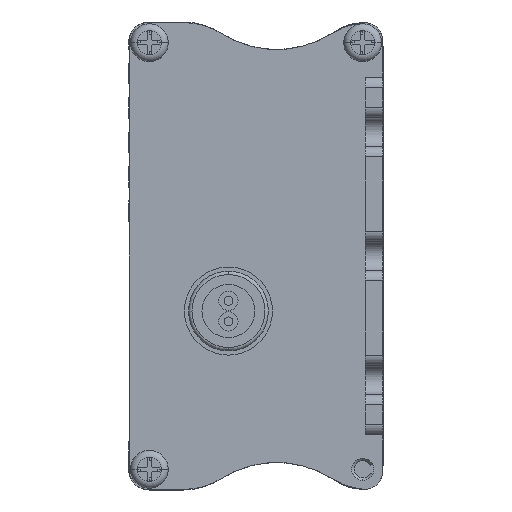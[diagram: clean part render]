
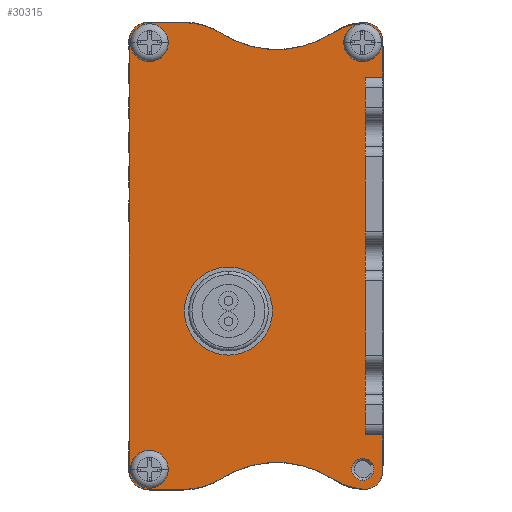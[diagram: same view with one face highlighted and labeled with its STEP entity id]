
A CAD part, left-side view. The second image highlights one B-rep face of the part: STEP entity #30315.
In plain terms, the highlighted planar face has unit normal (-1, 0, 0) as drawn and (1, 0, 0) by its records, which use the part's own axes.
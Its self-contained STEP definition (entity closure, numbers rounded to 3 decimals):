
#29438=CARTESIAN_POINT('',(2.5,22.4,8.));
#29439=DIRECTION('',(-1.,0.,0.));
#29440=DIRECTION('',(0.,1.,0.));
#29441=AXIS2_PLACEMENT_3D('',#29438,#29439,#29440);
#29443=CARTESIAN_POINT('',(2.5,22.4,8.));
#29444=DIRECTION('',(-1.,0.,0.));
#29445=DIRECTION('',(0.,-1.,0.));
#29446=AXIS2_PLACEMENT_3D('',#29443,#29444,#29445);
#29448=CARTESIAN_POINT('',(2.5,28.809,-23.9));
#29449=DIRECTION('',(1.,0.,0.));
#29450=DIRECTION('',(0.,-0.536,-0.844));
#29451=AXIS2_PLACEMENT_3D('',#29448,#29449,#29450);
#29453=CARTESIAN_POINT('',(2.5,15.4,-45.));
#29454=DIRECTION('',(1.,0.,0.));
#29455=DIRECTION('',(0.,0.536,0.844));
#29456=AXIS2_PLACEMENT_3D('',#29453,#29454,#29455);
#29458=CARTESIAN_POINT('',(2.5,1.959,-23.921));
#29459=DIRECTION('',(1.,0.,0.));
#29460=DIRECTION('',(0.,0.064,-0.998));
#29461=AXIS2_PLACEMENT_3D('',#29458,#29459,#29460);
#29463=CARTESIAN_POINT('',(2.5,2.6,-31.3));
#29464=DIRECTION('',(1.,0.,0.));
#29465=DIRECTION('',(0.,-1.,0.));
#29466=AXIS2_PLACEMENT_3D('',#29463,#29464,#29465);
#29468=DIRECTION('',(0.,0.,-1.));
#29469=VECTOR('',#29468,5.3);
#29470=CARTESIAN_POINT('',(2.5,0.,-26.));
#29471=LINE('',#29470,#29469);
#29472=DIRECTION('',(0.,1.,0.));
#29473=VECTOR('',#29472,2.5);
#29474=CARTESIAN_POINT('',(2.5,0.,26.));
#29475=LINE('',#29474,#29473);
#29476=DIRECTION('',(0.,0.,-1.));
#29477=VECTOR('',#29476,5.3);
#29478=CARTESIAN_POINT('',(2.5,0.,31.3));
#29479=LINE('',#29478,#29477);
#29480=CARTESIAN_POINT('',(2.5,2.6,31.3));
#29481=DIRECTION('',(1.,0.,0.));
#29482=DIRECTION('',(0.,0.,1.));
#29483=AXIS2_PLACEMENT_3D('',#29480,#29481,#29482);
#29485=CARTESIAN_POINT('',(2.5,1.959,23.921));
#29486=DIRECTION('',(1.,0.,0.));
#29487=DIRECTION('',(0.,0.538,0.843));
#29488=AXIS2_PLACEMENT_3D('',#29485,#29486,#29487);
#29490=CARTESIAN_POINT('',(2.5,15.4,45.));
#29491=DIRECTION('',(1.,0.,0.));
#29492=DIRECTION('',(0.,-0.538,-0.843));
#29493=AXIS2_PLACEMENT_3D('',#29490,#29491,#29492);
#29495=CARTESIAN_POINT('',(2.5,28.809,23.9));
#29496=DIRECTION('',(1.,0.,0.));
#29497=DIRECTION('',(0.,0.,1.));
#29498=AXIS2_PLACEMENT_3D('',#29495,#29496,#29497);
#29500=DIRECTION('',(0.,-1.,0.));
#29501=VECTOR('',#29500,5.391);
#29502=CARTESIAN_POINT('',(2.5,34.2,33.9));
#29503=LINE('',#29502,#29501);
#29504=CARTESIAN_POINT('',(2.5,34.2,31.3));
#29505=DIRECTION('',(1.,0.,0.));
#29506=DIRECTION('',(0.,1.,0.));
#29507=AXIS2_PLACEMENT_3D('',#29504,#29505,#29506);
#29509=DIRECTION('',(0.,0.,1.));
#29510=VECTOR('',#29509,62.6);
#29511=CARTESIAN_POINT('',(2.5,36.8,-31.3));
#29512=LINE('',#29511,#29510);
#29513=CARTESIAN_POINT('',(2.5,34.2,-31.3));
#29514=DIRECTION('',(1.,0.,0.));
#29515=DIRECTION('',(0.,0.,-1.));
#29516=AXIS2_PLACEMENT_3D('',#29513,#29514,#29515);
#29518=CARTESIAN_POINT('',(2.5,2.9,31.));
#29519=DIRECTION('',(-1.,0.,0.));
#29520=DIRECTION('',(0.,0.,-1.));
#29521=AXIS2_PLACEMENT_3D('',#29518,#29519,#29520);
#29523=CARTESIAN_POINT('',(2.5,2.9,31.));
#29524=DIRECTION('',(-1.,0.,0.));
#29525=DIRECTION('',(0.,0.,1.));
#29526=AXIS2_PLACEMENT_3D('',#29523,#29524,#29525);
#29528=CARTESIAN_POINT('',(2.5,33.9,31.));
#29529=DIRECTION('',(-1.,0.,0.));
#29530=DIRECTION('',(0.,0.,-1.));
#29531=AXIS2_PLACEMENT_3D('',#29528,#29529,#29530);
#29533=CARTESIAN_POINT('',(2.5,33.9,31.));
#29534=DIRECTION('',(-1.,0.,0.));
#29535=DIRECTION('',(0.,0.,1.));
#29536=AXIS2_PLACEMENT_3D('',#29533,#29534,#29535);
#29538=CARTESIAN_POINT('',(2.5,33.9,-31.));
#29539=DIRECTION('',(-1.,0.,0.));
#29540=DIRECTION('',(0.,0.,-1.));
#29541=AXIS2_PLACEMENT_3D('',#29538,#29539,#29540);
#29543=CARTESIAN_POINT('',(2.5,33.9,-31.));
#29544=DIRECTION('',(-1.,0.,0.));
#29545=DIRECTION('',(0.,0.,1.));
#29546=AXIS2_PLACEMENT_3D('',#29543,#29544,#29545);
#29548=CARTESIAN_POINT('',(2.5,2.9,-31.));
#29549=DIRECTION('',(-1.,0.,0.));
#29550=DIRECTION('',(0.,0.,-1.));
#29551=AXIS2_PLACEMENT_3D('',#29548,#29549,#29550);
#29553=CARTESIAN_POINT('',(2.5,2.9,-31.));
#29554=DIRECTION('',(-1.,0.,0.));
#29555=DIRECTION('',(0.,0.,1.));
#29556=AXIS2_PLACEMENT_3D('',#29553,#29554,#29555);
#29686=DIRECTION('',(0.,0.,1.));
#29687=VECTOR('',#29686,52.);
#29688=CARTESIAN_POINT('',(2.5,2.5,-26.));
#29689=LINE('',#29688,#29687);
#29796=DIRECTION('',(0.,1.,0.));
#29797=VECTOR('',#29796,2.5);
#29798=CARTESIAN_POINT('',(2.5,0.,-26.));
#29799=LINE('',#29798,#29797);
#29896=DIRECTION('',(0.,-1.,0.));
#29897=VECTOR('',#29896,5.391);
#29898=CARTESIAN_POINT('',(2.5,34.2,-33.9));
#29899=LINE('',#29898,#29897);
#29957=CARTESIAN_POINT('',(2.5,36.8,-31.3));
#29959=VERTEX_POINT('',#29957);
#29960=CARTESIAN_POINT('',(2.5,28.809,33.9));
#29962=VERTEX_POINT('',#29960);
#29965=CARTESIAN_POINT('',(2.5,34.2,33.9));
#29967=VERTEX_POINT('',#29965);
#29968=CARTESIAN_POINT('',(2.5,36.8,31.3));
#29970=VERTEX_POINT('',#29968);
#29973=CARTESIAN_POINT('',(2.5,2.6,-33.9));
#29975=VERTEX_POINT('',#29973);
#29977=CARTESIAN_POINT('',(2.5,23.445,32.34));
#29979=VERTEX_POINT('',#29977);
#29980=CARTESIAN_POINT('',(2.5,2.6,33.9));
#29982=VERTEX_POINT('',#29980);
#29984=CARTESIAN_POINT('',(2.5,7.335,32.352));
#29986=VERTEX_POINT('',#29984);
#29988=CARTESIAN_POINT('',(2.5,7.335,-32.352));
#29990=VERTEX_POINT('',#29988);
#29993=CARTESIAN_POINT('',(2.5,23.445,-32.34));
#29995=VERTEX_POINT('',#29993);
#30008=CARTESIAN_POINT('',(2.5,2.9,-32.6));
#30009=VERTEX_POINT('',#30008);
#30010=CARTESIAN_POINT('',(2.5,2.9,-29.4));
#30011=VERTEX_POINT('',#30010);
#30016=CARTESIAN_POINT('',(2.5,2.9,29.4));
#30017=VERTEX_POINT('',#30016);
#30018=CARTESIAN_POINT('',(2.5,2.9,32.6));
#30019=VERTEX_POINT('',#30018);
#30020=CARTESIAN_POINT('',(2.5,33.9,-32.6));
#30021=VERTEX_POINT('',#30020);
#30022=CARTESIAN_POINT('',(2.5,33.9,-29.4));
#30023=VERTEX_POINT('',#30022);
#30024=CARTESIAN_POINT('',(2.5,33.9,29.4));
#30025=VERTEX_POINT('',#30024);
#30026=CARTESIAN_POINT('',(2.5,33.9,32.6));
#30027=VERTEX_POINT('',#30026);
#30028=CARTESIAN_POINT('',(2.5,28.809,-33.9));
#30029=VERTEX_POINT('',#30028);
#30030=CARTESIAN_POINT('',(2.5,34.2,-33.9));
#30031=VERTEX_POINT('',#30030);
#30032=CARTESIAN_POINT('',(2.5,0.,31.3));
#30033=VERTEX_POINT('',#30032);
#30034=CARTESIAN_POINT('',(2.5,0.,26.));
#30035=VERTEX_POINT('',#30034);
#30036=CARTESIAN_POINT('',(2.5,2.5,26.));
#30037=VERTEX_POINT('',#30036);
#30038=CARTESIAN_POINT('',(2.5,2.5,-26.));
#30039=VERTEX_POINT('',#30038);
#30040=CARTESIAN_POINT('',(2.5,0.,-26.));
#30041=VERTEX_POINT('',#30040);
#30042=CARTESIAN_POINT('',(2.5,0.,-31.3));
#30043=VERTEX_POINT('',#30042);
#30052=CARTESIAN_POINT('',(2.5,28.8,8.));
#30053=CARTESIAN_POINT('',(2.5,16.,8.));
#30054=VERTEX_POINT('',#30052);
#30055=VERTEX_POINT('',#30053);
#30244=CARTESIAN_POINT('',(2.5,36.8,33.9));
#30245=DIRECTION('',(-1.,0.,0.));
#30246=DIRECTION('',(0.,-1.,0.));
#30247=AXIS2_PLACEMENT_3D('',#30244,#30245,#30246);
#30248=PLANE('',#30247);
#30250=ORIENTED_EDGE('',*,*,#30249,.F.);
#30252=ORIENTED_EDGE('',*,*,#30251,.T.);
#30254=ORIENTED_EDGE('',*,*,#30253,.F.);
#30256=ORIENTED_EDGE('',*,*,#30255,.F.);
#30258=ORIENTED_EDGE('',*,*,#30257,.F.);
#30260=ORIENTED_EDGE('',*,*,#30259,.T.);
#30262=ORIENTED_EDGE('',*,*,#30261,.T.);
#30264=ORIENTED_EDGE('',*,*,#30263,.F.);
#30266=ORIENTED_EDGE('',*,*,#30265,.F.);
#30268=ORIENTED_EDGE('',*,*,#30267,.F.);
#30270=ORIENTED_EDGE('',*,*,#30269,.F.);
#30272=ORIENTED_EDGE('',*,*,#30271,.T.);
#30273=ORIENTED_EDGE('',*,*,#30157,.F.);
#30275=ORIENTED_EDGE('',*,*,#30274,.F.);
#30277=ORIENTED_EDGE('',*,*,#30276,.F.);
#30279=ORIENTED_EDGE('',*,*,#30278,.F.);
#30281=ORIENTED_EDGE('',*,*,#30280,.F.);
#30283=ORIENTED_EDGE('',*,*,#30282,.T.);
#30284=EDGE_LOOP('',(#30250,#30252,#30254,#30256,#30258,#30260,#30262,#30264,
#30266,#30268,#30270,#30272,#30273,#30275,#30277,#30279,#30281,#30283));
#30285=FACE_OUTER_BOUND('',#30284,.F.);
#30286=ORIENTED_EDGE('',*,*,#30234,.F.);
#30288=ORIENTED_EDGE('',*,*,#30287,.F.);
#30289=EDGE_LOOP('',(#30286,#30288));
#30290=FACE_BOUND('',#30289,.F.);
#30292=ORIENTED_EDGE('',*,*,#30291,.F.);
#30294=ORIENTED_EDGE('',*,*,#30293,.F.);
#30295=EDGE_LOOP('',(#30292,#30294));
#30296=FACE_BOUND('',#30295,.F.);
#30298=ORIENTED_EDGE('',*,*,#30297,.F.);
#30300=ORIENTED_EDGE('',*,*,#30299,.F.);
#30301=EDGE_LOOP('',(#30298,#30300));
#30302=FACE_BOUND('',#30301,.F.);
#30304=ORIENTED_EDGE('',*,*,#30303,.F.);
#30306=ORIENTED_EDGE('',*,*,#30305,.F.);
#30307=EDGE_LOOP('',(#30304,#30306));
#30308=FACE_BOUND('',#30307,.F.);
#30310=ORIENTED_EDGE('',*,*,#30309,.F.);
#30312=ORIENTED_EDGE('',*,*,#30311,.F.);
#30313=EDGE_LOOP('',(#30310,#30312));
#30314=FACE_BOUND('',#30313,.F.);
#29442=CIRCLE('',#29441,6.4);
#29447=CIRCLE('',#29446,6.4);
#29452=CIRCLE('',#29451,10.);
#29457=CIRCLE('',#29456,15.);
#29462=CIRCLE('',#29461,10.);
#29467=CIRCLE('',#29466,2.6);
#29484=CIRCLE('',#29483,2.6);
#29489=CIRCLE('',#29488,10.);
#29494=CIRCLE('',#29493,15.);
#29499=CIRCLE('',#29498,10.);
#29508=CIRCLE('',#29507,2.6);
#29517=CIRCLE('',#29516,2.6);
#29522=CIRCLE('',#29521,1.6);
#29527=CIRCLE('',#29526,1.6);
#29532=CIRCLE('',#29531,1.6);
#29537=CIRCLE('',#29536,1.6);
#29542=CIRCLE('',#29541,1.6);
#29547=CIRCLE('',#29546,1.6);
#29552=CIRCLE('',#29551,1.6);
#29557=CIRCLE('',#29556,1.6);
#30157=EDGE_CURVE('',#29962,#29979,#29499,.T.);
#30234=EDGE_CURVE('',#30054,#30055,#29442,.T.);
#30249=EDGE_CURVE('',#29995,#30029,#29452,.T.);
#30251=EDGE_CURVE('',#29995,#29990,#29457,.T.);
#30253=EDGE_CURVE('',#29975,#29990,#29462,.T.);
#30255=EDGE_CURVE('',#30043,#29975,#29467,.T.);
#30257=EDGE_CURVE('',#30041,#30043,#29471,.T.);
#30259=EDGE_CURVE('',#30041,#30039,#29799,.T.);
#30261=EDGE_CURVE('',#30039,#30037,#29689,.T.);
#30263=EDGE_CURVE('',#30035,#30037,#29475,.T.);
#30265=EDGE_CURVE('',#30033,#30035,#29479,.T.);
#30267=EDGE_CURVE('',#29982,#30033,#29484,.T.);
#30269=EDGE_CURVE('',#29986,#29982,#29489,.T.);
#30271=EDGE_CURVE('',#29986,#29979,#29494,.T.);
#30274=EDGE_CURVE('',#29967,#29962,#29503,.T.);
#30276=EDGE_CURVE('',#29970,#29967,#29508,.T.);
#30278=EDGE_CURVE('',#29959,#29970,#29512,.T.);
#30280=EDGE_CURVE('',#30031,#29959,#29517,.T.);
#30282=EDGE_CURVE('',#30031,#30029,#29899,.T.);
#30287=EDGE_CURVE('',#30055,#30054,#29447,.T.);
#30291=EDGE_CURVE('',#30017,#30019,#29522,.T.);
#30293=EDGE_CURVE('',#30019,#30017,#29527,.T.);
#30297=EDGE_CURVE('',#30025,#30027,#29532,.T.);
#30299=EDGE_CURVE('',#30027,#30025,#29537,.T.);
#30303=EDGE_CURVE('',#30021,#30023,#29542,.T.);
#30305=EDGE_CURVE('',#30023,#30021,#29547,.T.);
#30309=EDGE_CURVE('',#30009,#30011,#29552,.T.);
#30311=EDGE_CURVE('',#30011,#30009,#29557,.T.);
#30315=ADVANCED_FACE('',(#30285,#30290,#30296,#30302,#30308,#30314),#30248,.F.);
